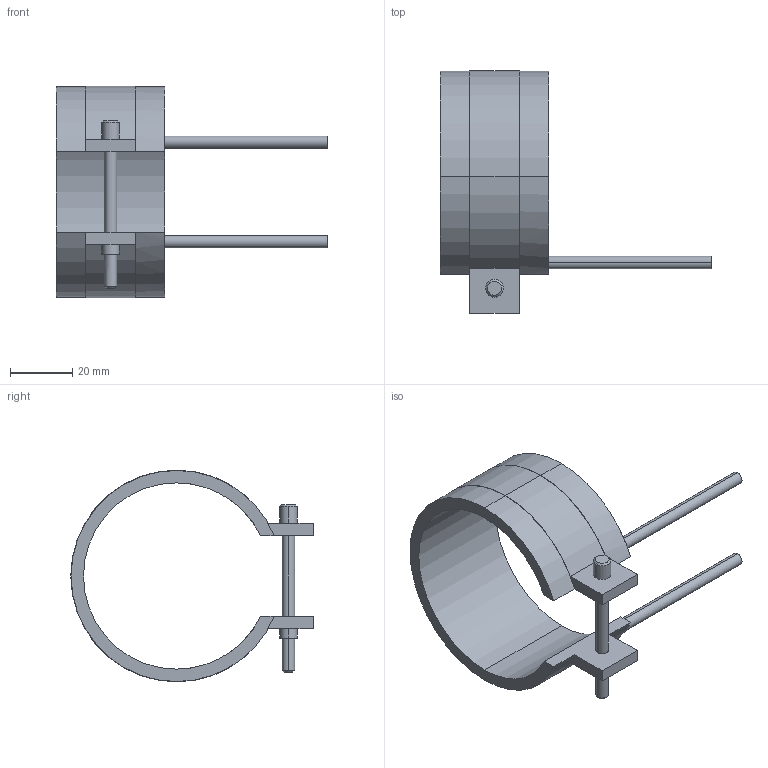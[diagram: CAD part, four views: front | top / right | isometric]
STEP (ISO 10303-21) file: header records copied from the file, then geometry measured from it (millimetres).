
FILE_DESCRIPTION(('CATIA V5 STEP Exchange'),'2;1');
FILE_NAME('C:\Users\Utente\Desktop\IO LAVORO\3D X SITO CF\X SITO\PLASTICA\RF2\14060035.stp','2021-04-01T09:39:12+00:00',('none'),('none'),'CATIA Version 5 Release 20 GA (IN-10)','CATIA V5 STEP AP203','none');
FILE_SCHEMA(('CONFIG_CONTROL_DESIGN'));
Length unit declared in the file: millimetre
Products named in the file (1): 14060035
Bounding box: 87.5 x 78.1 x 68.2 mm (x, y, z)
Volume: 28425.2 mm3; surface area: 16921.5 mm2
Topology: 1 solids, 1 shells, 45 faces, 116 edges, 76 vertices
Faces by surface type: cylinder 24, plane 17, cone 4
Entity records: 1406 total; most frequent: CARTESIAN_POINT 280, ORIENTED_EDGE 232, DIRECTION 196, EDGE_CURVE 116, AXIS2_PLACEMENT_3D 104, VERTEX_POINT 76, CIRCLE 62, VECTOR 52
